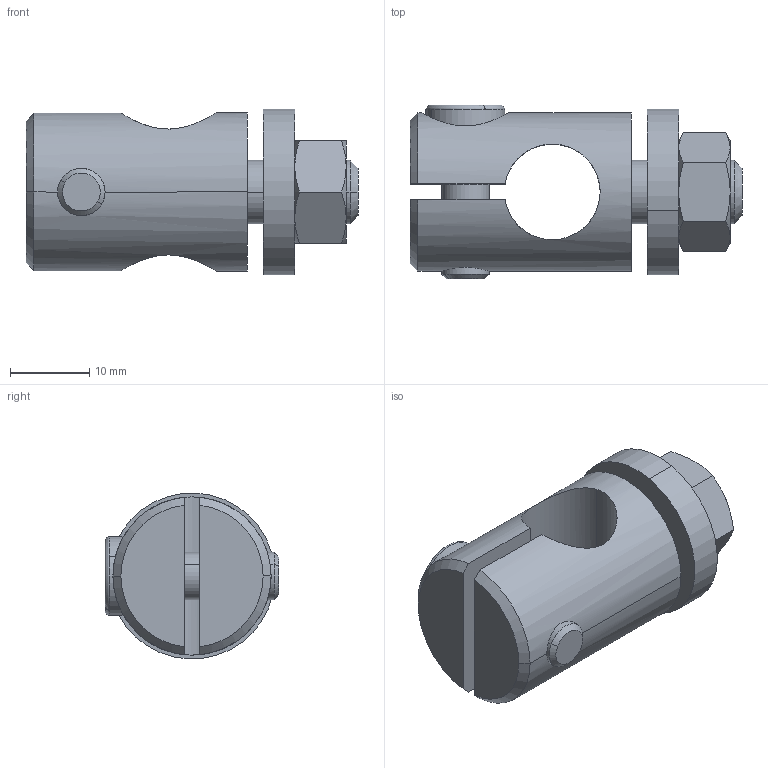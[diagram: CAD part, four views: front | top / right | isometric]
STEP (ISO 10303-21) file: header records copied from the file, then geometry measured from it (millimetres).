
FILE_DESCRIPTION((''),'2;1');
FILE_NAME('W:\214-196.stp','2004-01-23T15:45:43',('KAA'),(''),'Autodesk Inventor (R) 6.0','Autodesk Inventor (R) 6.0','');
FILE_SCHEMA(('CONFIG_CONTROL_DESIGN'));
Length unit declared in the file: millimetre
Products named in the file (1): 214-196
Bounding box: 42 x 22 x 20.98 mm (x, y, z)
Volume: 8571.2 mm3; surface area: 5137 mm2
Topology: 1 solids, 1 shells, 77 faces, 184 edges, 116 vertices
Faces by surface type: plane 26, cone 24, cylinder 20, bspline 7
Entity records: 2543 total; most frequent: CARTESIAN_POINT 758, ORIENTED_EDGE 364, DIRECTION 349, EDGE_CURVE 182, AXIS2_PLACEMENT_3D 144, VERTEX_POINT 116, EDGE_LOOP 88, FACE_OUTER_BOUND 77
